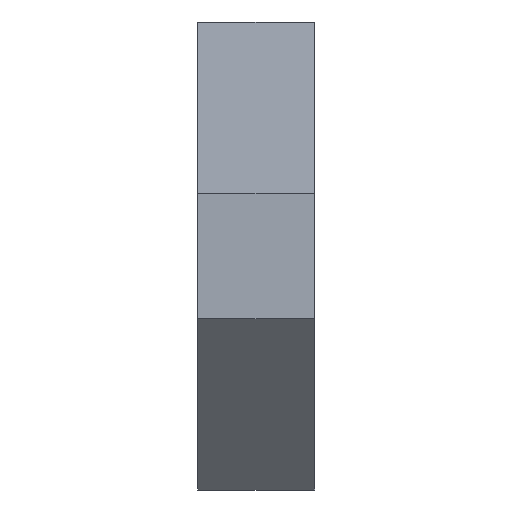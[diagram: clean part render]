
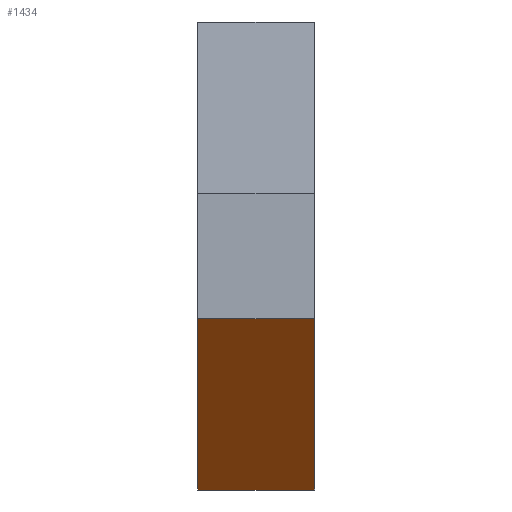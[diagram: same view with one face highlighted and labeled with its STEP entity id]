
A CAD part, left-side view. The second image highlights one B-rep face of the part: STEP entity #1434.
In plain terms, the highlighted planar face has unit normal (-0.406, 0, -0.914).
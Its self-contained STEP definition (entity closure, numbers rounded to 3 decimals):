
#128=FACE_OUTER_BOUND('',#208,.T.);
#208=EDGE_LOOP('',(#1284,#1285,#1286,#1287));
#276=LINE('',#2055,#452);
#357=LINE('',#2266,#533);
#385=LINE('',#2323,#561);
#386=LINE('',#2325,#562);
#452=VECTOR('',#1648,10.);
#533=VECTOR('',#1825,10.);
#561=VECTOR('',#1903,10.);
#562=VECTOR('',#1906,10.);
#617=VERTEX_POINT('',#2052);
#618=VERTEX_POINT('',#2054);
#699=VERTEX_POINT('',#2263);
#700=VERTEX_POINT('',#2265);
#764=EDGE_CURVE('',#617,#618,#276,.T.);
#870=EDGE_CURVE('',#699,#700,#357,.T.);
#901=EDGE_CURVE('',#699,#618,#385,.T.);
#902=EDGE_CURVE('',#617,#700,#386,.T.);
#1284=ORIENTED_EDGE('',*,*,#902,.T.);
#1285=ORIENTED_EDGE('',*,*,#870,.F.);
#1286=ORIENTED_EDGE('',*,*,#901,.T.);
#1287=ORIENTED_EDGE('',*,*,#764,.F.);
#1367=PLANE('',#1546);
#1434=ADVANCED_FACE('',(#128),#1367,.T.);
#1546=AXIS2_PLACEMENT_3D('',#2324,#1904,#1905);
#1648=DIRECTION('',(0.914,0.,-0.406));
#1825=DIRECTION('',(-0.914,0.,0.406));
#1903=DIRECTION('',(0.,-1.,0.));
#1904=DIRECTION('center_axis',(-0.406,0.,
-0.914));
#1905=DIRECTION('ref_axis',(0.914,0.,-0.406));
#1906=DIRECTION('',(0.,1.,0.));
#2052=CARTESIAN_POINT('',(-52.274,42.,24.784));
#2054=CARTESIAN_POINT('',(-25.949,42.,13.084));
#2055=CARTESIAN_POINT('',(-30.767,42.,15.226));
#2263=CARTESIAN_POINT('',(-25.949,50.,13.084));
#2265=CARTESIAN_POINT('',(-52.274,50.,24.784));
#2266=CARTESIAN_POINT('',(-29.932,50.,14.854));
#2323=CARTESIAN_POINT('',(-25.949,48.,13.084));
#2324=CARTESIAN_POINT('Origin',(-51.087,45.,24.256));
#2325=CARTESIAN_POINT('',(-52.274,45.,24.784));
